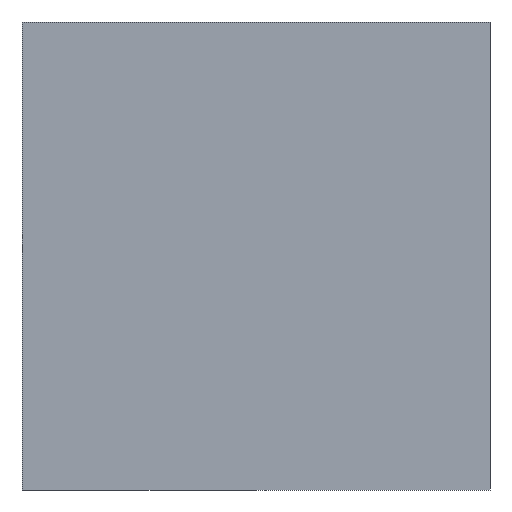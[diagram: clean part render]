
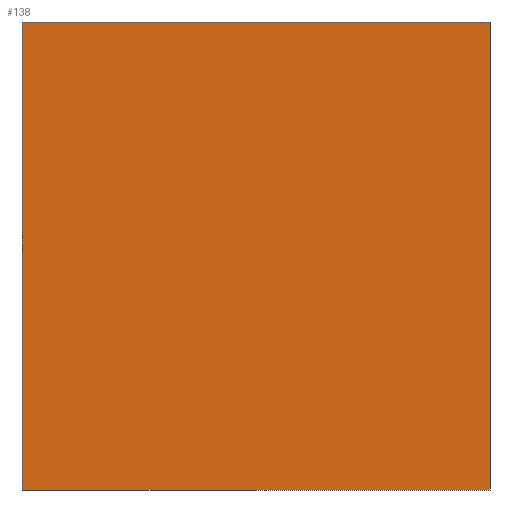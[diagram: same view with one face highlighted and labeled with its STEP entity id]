
A CAD part, left-side view. The second image highlights one B-rep face of the part: STEP entity #138.
In plain terms, the highlighted planar face has unit normal (-1, 0, 0).
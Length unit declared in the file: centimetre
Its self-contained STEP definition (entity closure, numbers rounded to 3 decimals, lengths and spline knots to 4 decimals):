
#9 = VERTEX_POINT ( 'NONE', #52 ) ;
#25 = AXIS2_PLACEMENT_3D ( 'NONE', #332, #165, #211 ) ;
#39 = LINE ( 'NONE', #129, #318 ) ;
#52 = CARTESIAN_POINT ( 'NONE',  ( 0., 1000., 1000. ) ) ;
#55 = LINE ( 'NONE', #56, #145 ) ;
#56 = CARTESIAN_POINT ( 'NONE',  ( 0., 0., 1000. ) ) ;
#77 = ORIENTED_EDGE ( 'NONE', *, *, #88, .F. ) ;
#79 = CARTESIAN_POINT ( 'NONE',  ( 0., 1000., 0. ) ) ;
#83 = DIRECTION ( 'NONE',  ( 0., 0., -1. ) ) ;
#88 = EDGE_CURVE ( 'NONE', #9, #217, #223, .T. ) ;
#101 = EDGE_CURVE ( 'NONE', #398, #258, #298, .T. ) ;
#110 = FACE_OUTER_BOUND ( 'NONE', #325, .T. ) ;
#118 = VECTOR ( 'NONE', #322, 100. ) ;
#129 = CARTESIAN_POINT ( 'NONE',  ( 0., 1000., 1000. ) ) ;
#138 = ADVANCED_FACE ( 'NONE', ( #110 ), #199, .F. ) ;
#144 = CARTESIAN_POINT ( 'NONE',  ( 0., 0., 0. ) ) ;
#145 = VECTOR ( 'NONE', #83, 100. ) ;
#157 = DIRECTION ( 'NONE',  ( 0., 0., -1. ) ) ;
#165 = DIRECTION ( 'NONE',  ( 1., 0., 0. ) ) ;
#182 = ORIENTED_EDGE ( 'NONE', *, *, #228, .T. ) ;
#189 = CARTESIAN_POINT ( 'NONE',  ( 0., 0., 1000. ) ) ;
#199 = PLANE ( 'NONE',  #25 ) ;
#201 = VECTOR ( 'NONE', #320, 100. ) ;
#211 = DIRECTION ( 'NONE',  ( 0., 0., -1. ) ) ;
#217 = VERTEX_POINT ( 'NONE', #189 ) ;
#223 = LINE ( 'NONE', #352, #201 ) ;
#228 = EDGE_CURVE ( 'NONE', #9, #398, #39, .T. ) ;
#237 = ORIENTED_EDGE ( 'NONE', *, *, #101, .T. ) ;
#258 = VERTEX_POINT ( 'NONE', #144 ) ;
#298 = LINE ( 'NONE', #79, #118 ) ;
#318 = VECTOR ( 'NONE', #157, 100. ) ;
#320 = DIRECTION ( 'NONE',  ( 0., -1., 0. ) ) ;
#322 = DIRECTION ( 'NONE',  ( 0., -1., 0. ) ) ;
#325 = EDGE_LOOP ( 'NONE', ( #237, #347, #77, #182 ) ) ;
#332 = CARTESIAN_POINT ( 'NONE',  ( 0., 1000., 1000. ) ) ;
#347 = ORIENTED_EDGE ( 'NONE', *, *, #361, .F. ) ;
#352 = CARTESIAN_POINT ( 'NONE',  ( 0., 1000., 1000. ) ) ;
#361 = EDGE_CURVE ( 'NONE', #217, #258, #55, .T. ) ;
#398 = VERTEX_POINT ( 'NONE', #405 ) ;
#405 = CARTESIAN_POINT ( 'NONE',  ( 0., 1000., 0. ) ) ;
